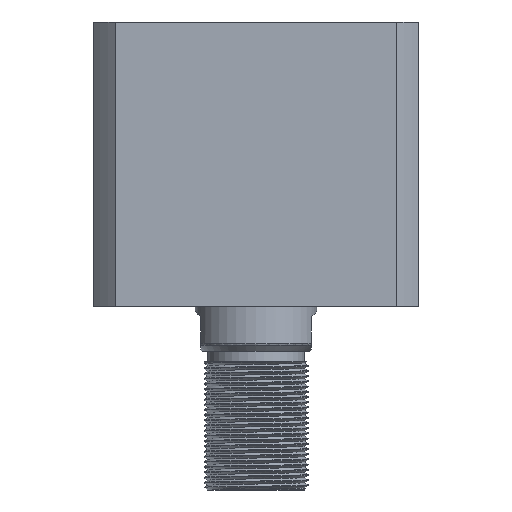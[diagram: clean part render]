
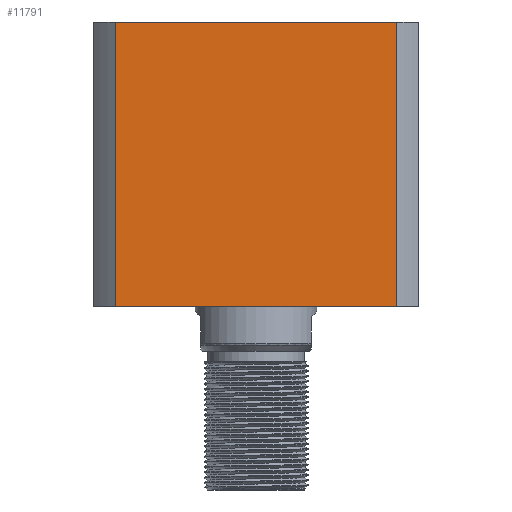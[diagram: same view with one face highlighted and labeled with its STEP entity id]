
A CAD part, front view. The second image highlights one B-rep face of the part: STEP entity #11791.
In plain terms, the highlighted planar face has unit normal (0, -1, 0) as drawn and (0, 1, 0) by its records, which use the part's own axes.
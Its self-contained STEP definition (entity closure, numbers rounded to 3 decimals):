
#507 = DIRECTION ( 'NONE',  ( 0., 0., 1. ) ) ;
#1497 = VECTOR ( 'NONE', #507, 1000. ) ;
#2425 = VERTEX_POINT ( 'NONE', #7181 ) ;
#3345 = LINE ( 'NONE', #11253, #12076 ) ;
#3655 = EDGE_CURVE ( 'NONE', #11465, #7841, #6503, .T. ) ;
#4005 = ORIENTED_EDGE ( 'NONE', *, *, #17296, .F. ) ;
#4109 = CARTESIAN_POINT ( 'NONE',  ( -40.435, 47., 82. ) ) ;
#5322 = DIRECTION ( 'NONE',  ( -1., 0., 0. ) ) ;
#6503 = LINE ( 'NONE', #22358, #15792 ) ;
#7181 = CARTESIAN_POINT ( 'NONE',  ( 40.435, 47., 82. ) ) ;
#7841 = VERTEX_POINT ( 'NONE', #20921 ) ;
#8232 = EDGE_LOOP ( 'NONE', ( #13083, #18228, #21506, #4005 ) ) ;
#8915 = VERTEX_POINT ( 'NONE', #4109 ) ;
#9905 = PLANE ( 'NONE',  #10167 ) ;
#10167 = AXIS2_PLACEMENT_3D ( 'NONE', #16767, #21973, #11657 ) ;
#10992 = CARTESIAN_POINT ( 'NONE',  ( 40.435, 47., 0. ) ) ;
#11048 = FACE_OUTER_BOUND ( 'NONE', #8232, .T. ) ;
#11253 = CARTESIAN_POINT ( 'NONE',  ( -47., 47., 82. ) ) ;
#11465 = VERTEX_POINT ( 'NONE', #10992 ) ;
#11657 = DIRECTION ( 'NONE',  ( 0., 0., -1. ) ) ;
#11791 = ADVANCED_FACE ( 'NONE', ( #11048 ), #9905, .F. ) ;
#12076 = VECTOR ( 'NONE', #21557, 1000. ) ;
#13083 = ORIENTED_EDGE ( 'NONE', *, *, #13137, .F. ) ;
#13137 = EDGE_CURVE ( 'NONE', #11465, #2425, #19388, .T. ) ;
#14958 = EDGE_CURVE ( 'NONE', #8915, #7841, #20701, .T. ) ;
#15792 = VECTOR ( 'NONE', #5322, 1000. ) ;
#16177 = VECTOR ( 'NONE', #22359, 1000. ) ;
#16192 = CARTESIAN_POINT ( 'NONE',  ( 40.435, 47., -218. ) ) ;
#16767 = CARTESIAN_POINT ( 'NONE',  ( -47., 47., 82. ) ) ;
#17296 = EDGE_CURVE ( 'NONE', #2425, #8915, #3345, .T. ) ;
#18228 = ORIENTED_EDGE ( 'NONE', *, *, #3655, .T. ) ;
#18907 = CARTESIAN_POINT ( 'NONE',  ( -40.435, 47., -218. ) ) ;
#19388 = LINE ( 'NONE', #16192, #1497 ) ;
#20701 = LINE ( 'NONE', #18907, #16177 ) ;
#20921 = CARTESIAN_POINT ( 'NONE',  ( -40.435, 47., 0. ) ) ;
#21506 = ORIENTED_EDGE ( 'NONE', *, *, #14958, .F. ) ;
#21557 = DIRECTION ( 'NONE',  ( -1., 0., 0. ) ) ;
#21973 = DIRECTION ( 'NONE',  ( 0., -1., 0. ) ) ;
#22358 = CARTESIAN_POINT ( 'NONE',  ( -47., 47., 0. ) ) ;
#22359 = DIRECTION ( 'NONE',  ( 0., 0., -1. ) ) ;
